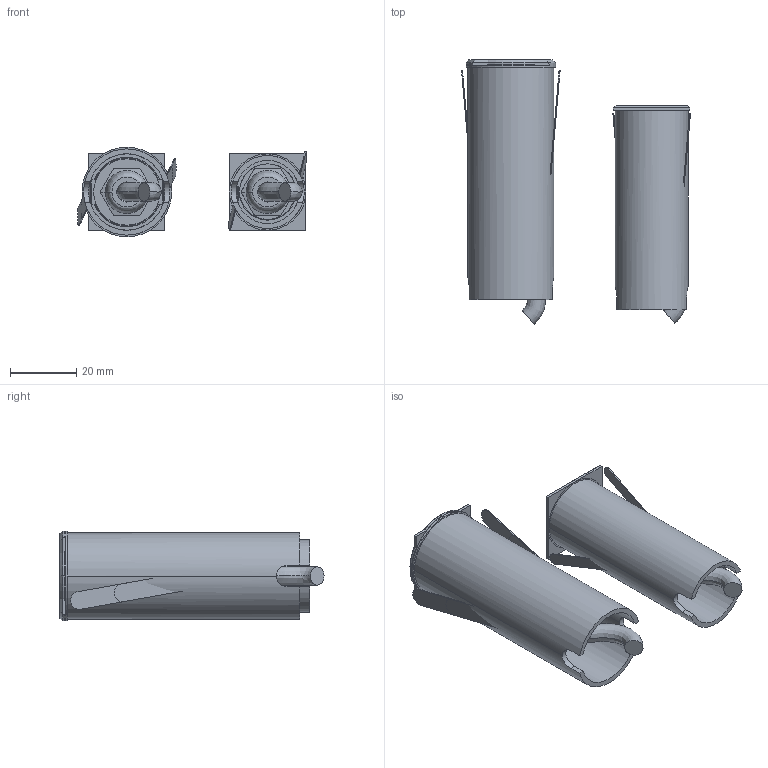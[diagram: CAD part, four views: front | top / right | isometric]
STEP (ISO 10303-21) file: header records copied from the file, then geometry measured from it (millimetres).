
FILE_DESCRIPTION((''),'2;1');
FILE_NAME('2BN_2BM_ALL_ASM_5_ASM','2020-08-12T',('Administrator'),(''),'CREO PARAMETRIC BY PTC INC, 2015200','CREO PARAMETRIC BY PTC INC, 2015200','');
FILE_SCHEMA(('CONFIG_CONTROL_DESIGN'));
Length unit declared in the file: millimetre
Products named in the file (26): 2BN_DT_JIA_GAO_BAN_D20_20; PG7_CU_23; 2BN_TOU_JING_YA_QUAN_8; 2M_LJB_15; 2M_KH_NO4_11; 2M_FSQ_D19_3; 2YC_LJB_3; 2BN_DT_ZJ_B15_ASM_27_ASM; B15_TOU_JING_10; 2BMR_MG_D27_2; 2M_PC_D19_9; 2BN_MG_ZJ_B15_ASM_15_ASM; 2M_YMT_D24_19; 2MS_MG_9; 2BN0157_B15_ASM_55_ASM; 2M_PC_9; 2MT_MG_ASM_10_ASM; 2MT_DT_89; 2M_FSQ_10; 2M_KH_NO2_21_1; 2MT_DT_ZJ_ASM_21_ASM; 2M_YMT_19; B2BM0156_ASM_64_ASM; 2019-5-15KAHUANG; 2MT_MG_18; 2BN_2BM_ALL_ASM_5_ASM
Assembly tree (29 placements, depth 4):
  2BN_2BM_ALL_ASM_5_ASM
    2BN0157_B15_ASM_55_ASM
      2BN_DT_ZJ_B15_ASM_27_ASM
        2BN_DT_JIA_GAO_BAN_D20_20
        PG7_CU_23
        2BN_TOU_JING_YA_QUAN_8
        2M_LJB_15
        2M_KH_NO4_11
        2M_FSQ_D19_3
        2YC_LJB_3
      B15_TOU_JING_10
      2BN_MG_ZJ_B15_ASM_15_ASM
        2BMR_MG_D27_2
        2M_PC_D19_9
      2M_YMT_D24_19
      2MS_MG_9
    B2BM0156_ASM_64_ASM
      2MT_MG_ASM_10_ASM
        2M_PC_9
      2MT_DT_ZJ_ASM_21_ASM
        2MT_DT_89
        PG7_CU_23
        2M_FSQ_10
        2M_KH_NO2_21_1
      2M_LJB_15
      2M_YMT_19
    2019-5-15KAHUANG
    2BMR_MG_D27_2
    2MT_MG_18
    2MS_MG_9
Bounding box: 68.98 x 79.6 x 27 mm (x, y, z)
Volume: 42444.8 mm3; surface area: 49152.8 mm2
Topology: 23 solids, 23 shells, 690 faces, 1758 edges, 1172 vertices
Faces by surface type: cylinder 281, plane 278, bspline 91, cone 27, extrusion 5, revolution 4, sphere 4
Entity records: 29716 total; most frequent: CARTESIAN_POINT 16308, ORIENTED_EDGE 2730, DIRECTION 2643, EDGE_CURVE 1365, AXIS2_PLACEMENT_3D 1043, VERTEX_POINT 909, EDGE_LOOP 620, VECTOR 555
